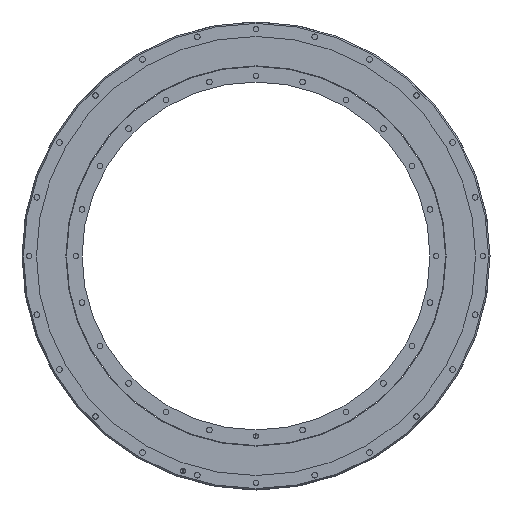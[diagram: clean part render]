
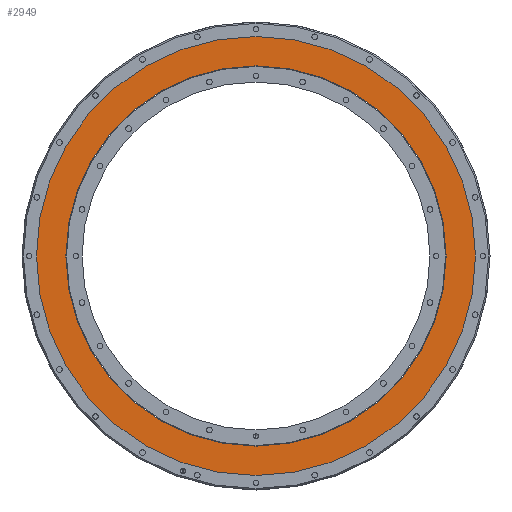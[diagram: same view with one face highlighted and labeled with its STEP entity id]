
A CAD part, front view. The second image highlights one B-rep face of the part: STEP entity #2949.
In plain terms, the highlighted planar face has unit normal (0, -1, 0).
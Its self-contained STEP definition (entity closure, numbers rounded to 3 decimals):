
#9 = ORIENTED_EDGE ( 'NONE', *, *, #508, .F. ) ;
#149 = CARTESIAN_POINT ( 'NONE',  ( 0., 1., 0. ) ) ;
#416 = CARTESIAN_POINT ( 'NONE',  ( 0., 1., -229.5 ) ) ;
#508 = EDGE_CURVE ( 'NONE', #3836, #6445, #9041, .T. ) ;
#1088 = CARTESIAN_POINT ( 'NONE',  ( 0., 1., 229.5 ) ) ;
#1116 = EDGE_LOOP ( 'NONE', ( #2592, #5725 ) ) ;
#2592 = ORIENTED_EDGE ( 'NONE', *, *, #7421, .T. ) ;
#2949 = ADVANCED_FACE ( 'NONE', ( #9974, #9400 ), #8630, .T. ) ;
#3786 = DIRECTION ( 'NONE',  ( 0., -1., 0. ) ) ;
#3836 = VERTEX_POINT ( 'NONE', #1088 ) ;
#3933 = VERTEX_POINT ( 'NONE', #8070 ) ;
#4662 = DIRECTION ( 'NONE',  ( 0., -1., 0. ) ) ;
#4818 = CARTESIAN_POINT ( 'NONE',  ( 0., 1., 0. ) ) ;
#4997 = DIRECTION ( 'NONE',  ( 0., -1., 0. ) ) ;
#5219 = ORIENTED_EDGE ( 'NONE', *, *, #5648, .F. ) ;
#5368 = CIRCLE ( 'NONE', #6426, 265. ) ;
#5648 = EDGE_CURVE ( 'NONE', #6445, #3836, #6924, .T. ) ;
#5725 = ORIENTED_EDGE ( 'NONE', *, *, #8495, .T. ) ;
#5864 = DIRECTION ( 'NONE',  ( 0., -1., 0. ) ) ;
#5892 = VERTEX_POINT ( 'NONE', #11460 ) ;
#6426 = AXIS2_PLACEMENT_3D ( 'NONE', #4818, #3786, #7519 ) ;
#6445 = VERTEX_POINT ( 'NONE', #416 ) ;
#6456 = DIRECTION ( 'NONE',  ( 0., 0., -1. ) ) ;
#6819 = CARTESIAN_POINT ( 'NONE',  ( 229.5, 1., 0. ) ) ;
#6889 = CIRCLE ( 'NONE', #10701, 265. ) ;
#6924 = CIRCLE ( 'NONE', #11264, 229.5 ) ;
#7069 = AXIS2_PLACEMENT_3D ( 'NONE', #6819, #5864, #8592 ) ;
#7177 = CARTESIAN_POINT ( 'NONE',  ( 0., 1., 0. ) ) ;
#7421 = EDGE_CURVE ( 'NONE', #5892, #3933, #5368, .T. ) ;
#7519 = DIRECTION ( 'NONE',  ( 0., 0., -1. ) ) ;
#8070 = CARTESIAN_POINT ( 'NONE',  ( 0., 1., 265. ) ) ;
#8495 = EDGE_CURVE ( 'NONE', #3933, #5892, #6889, .T. ) ;
#8592 = DIRECTION ( 'NONE',  ( 0., 0., -1. ) ) ;
#8630 = PLANE ( 'NONE',  #7069 ) ;
#8993 = AXIS2_PLACEMENT_3D ( 'NONE', #9431, #4997, #11251 ) ;
#9041 = CIRCLE ( 'NONE', #8993, 229.5 ) ;
#9400 = FACE_BOUND ( 'NONE', #10628, .T. ) ;
#9431 = CARTESIAN_POINT ( 'NONE',  ( 0., 1., 0. ) ) ;
#9974 = FACE_OUTER_BOUND ( 'NONE', #1116, .T. ) ;
#10057 = DIRECTION ( 'NONE',  ( 0., 0., -1. ) ) ;
#10628 = EDGE_LOOP ( 'NONE', ( #5219, #9 ) ) ;
#10701 = AXIS2_PLACEMENT_3D ( 'NONE', #149, #10885, #10057 ) ;
#10885 = DIRECTION ( 'NONE',  ( 0., -1., 0. ) ) ;
#11251 = DIRECTION ( 'NONE',  ( 0., 0., -1. ) ) ;
#11264 = AXIS2_PLACEMENT_3D ( 'NONE', #7177, #4662, #6456 ) ;
#11460 = CARTESIAN_POINT ( 'NONE',  ( 0., 1., -265. ) ) ;
